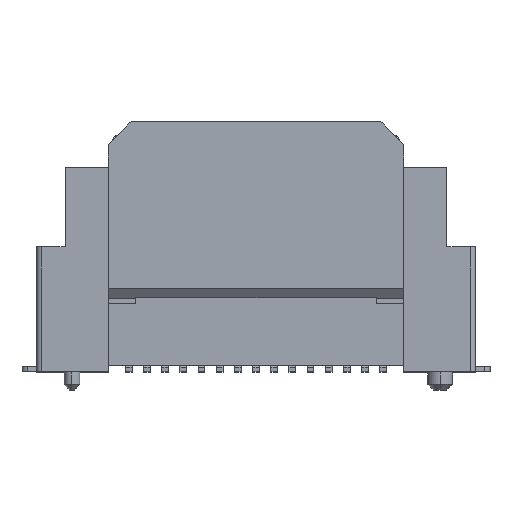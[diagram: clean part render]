
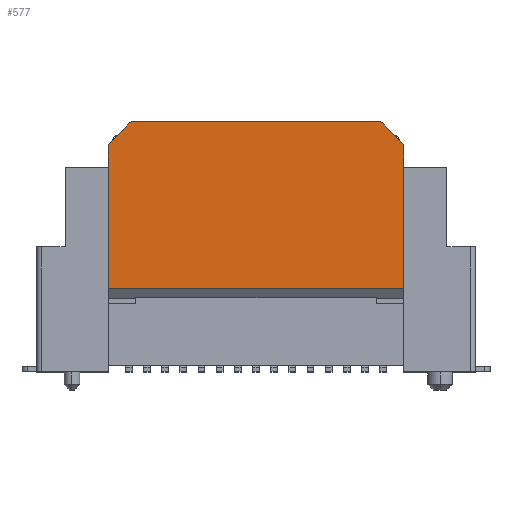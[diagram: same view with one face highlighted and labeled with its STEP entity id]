
A CAD part, top view. The second image highlights one B-rep face of the part: STEP entity #577.
In plain terms, the highlighted planar face has unit normal (0, 0, 1).
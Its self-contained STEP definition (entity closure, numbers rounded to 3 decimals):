
#152 = ORIENTED_EDGE ( 'NONE', *, *, #9112, .T. ) ;
#181 = CARTESIAN_POINT ( 'NONE',  ( -6.5, 9., 2.9 ) ) ;
#466 = EDGE_CURVE ( 'NONE', #1423, #15160, #12662, .T. ) ;
#467 = LINE ( 'NONE', #10291, #1543 ) ;
#577 = ADVANCED_FACE ( 'NONE', ( #2434 ), #12988, .F. ) ;
#1038 = VERTEX_POINT ( 'NONE', #8231 ) ;
#1423 = VERTEX_POINT ( 'NONE', #6023 ) ;
#1543 = VECTOR ( 'NONE', #12984, 1000. ) ;
#2405 = VERTEX_POINT ( 'NONE', #9329 ) ;
#2434 = FACE_OUTER_BOUND ( 'NONE', #7484, .T. ) ;
#3013 = EDGE_CURVE ( 'NONE', #3879, #1038, #467, .T. ) ;
#3216 = CARTESIAN_POINT ( 'NONE',  ( -6.5, 11., 2.9 ) ) ;
#3357 = CARTESIAN_POINT ( 'NONE',  ( -6.5, 3.67, 2.9 ) ) ;
#3401 = DIRECTION ( 'NONE',  ( -1., 0., 0. ) ) ;
#3655 = LINE ( 'NONE', #12902, #5578 ) ;
#3769 = EDGE_CURVE ( 'NONE', #13794, #2405, #16900, .T. ) ;
#3879 = VERTEX_POINT ( 'NONE', #181 ) ;
#4374 = VECTOR ( 'NONE', #13963, 1000. ) ;
#4847 = CARTESIAN_POINT ( 'NONE',  ( -6.5, 2.2, 2.9 ) ) ;
#5004 = DIRECTION ( 'NONE',  ( 0., 0., -1. ) ) ;
#5578 = VECTOR ( 'NONE', #14330, 1000. ) ;
#6023 = CARTESIAN_POINT ( 'NONE',  ( 5.5, 11., 2.9 ) ) ;
#6093 = LINE ( 'NONE', #9676, #9900 ) ;
#6276 = CARTESIAN_POINT ( 'NONE',  ( -5.5, 11., 2.9 ) ) ;
#6881 = DIRECTION ( 'NONE',  ( 0., 1., 0. ) ) ;
#7484 = EDGE_LOOP ( 'NONE', ( #11460, #152, #16154, #10717, #11320, #10372, #13382, #17273 ) ) ;
#7524 = VECTOR ( 'NONE', #3401, 1000. ) ;
#7961 = LINE ( 'NONE', #15168, #4374 ) ;
#8231 = CARTESIAN_POINT ( 'NONE',  ( -6.5, 10., 2.9 ) ) ;
#8262 = VERTEX_POINT ( 'NONE', #3357 ) ;
#9057 = EDGE_CURVE ( 'NONE', #15160, #1038, #6093, .T. ) ;
#9112 = EDGE_CURVE ( 'NONE', #2405, #1423, #7961, .T. ) ;
#9329 = CARTESIAN_POINT ( 'NONE',  ( 6.5, 10., 2.9 ) ) ;
#9437 = AXIS2_PLACEMENT_3D ( 'NONE', #4847, #5004, #14355 ) ;
#9676 = CARTESIAN_POINT ( 'NONE',  ( -5.5, 11., 2.9 ) ) ;
#9835 = VERTEX_POINT ( 'NONE', #13942 ) ;
#9900 = VECTOR ( 'NONE', #12455, 1000. ) ;
#10291 = CARTESIAN_POINT ( 'NONE',  ( -6.5, 2.2, 2.9 ) ) ;
#10372 = ORIENTED_EDGE ( 'NONE', *, *, #17331, .F. ) ;
#10717 = ORIENTED_EDGE ( 'NONE', *, *, #9057, .T. ) ;
#11320 = ORIENTED_EDGE ( 'NONE', *, *, #3013, .F. ) ;
#11460 = ORIENTED_EDGE ( 'NONE', *, *, #3769, .T. ) ;
#11512 = VECTOR ( 'NONE', #15359, 1000. ) ;
#12433 = VECTOR ( 'NONE', #17059, 1000. ) ;
#12455 = DIRECTION ( 'NONE',  ( -0.707, -0.707, 0. ) ) ;
#12662 = LINE ( 'NONE', #3216, #7524 ) ;
#12902 = CARTESIAN_POINT ( 'NONE',  ( -7.724, 3.67, 2.9 ) ) ;
#12984 = DIRECTION ( 'NONE',  ( 0., 1., 0. ) ) ;
#12988 = PLANE ( 'NONE',  #9437 ) ;
#13326 = VECTOR ( 'NONE', #6881, 1000. ) ;
#13382 = ORIENTED_EDGE ( 'NONE', *, *, #14085, .T. ) ;
#13514 = CARTESIAN_POINT ( 'NONE',  ( -6.5, 2.2, 2.9 ) ) ;
#13759 = LINE ( 'NONE', #13514, #13326 ) ;
#13794 = VERTEX_POINT ( 'NONE', #13797 ) ;
#13797 = CARTESIAN_POINT ( 'NONE',  ( 6.5, 9., 2.9 ) ) ;
#13942 = CARTESIAN_POINT ( 'NONE',  ( 6.5, 3.67, 2.9 ) ) ;
#13963 = DIRECTION ( 'NONE',  ( -0.707, 0.707, 0. ) ) ;
#14085 = EDGE_CURVE ( 'NONE', #8262, #9835, #3655, .T. ) ;
#14106 = CARTESIAN_POINT ( 'NONE',  ( 6.5, 2.2, 2.9 ) ) ;
#14201 = LINE ( 'NONE', #16881, #12433 ) ;
#14330 = DIRECTION ( 'NONE',  ( 1., 0., 0. ) ) ;
#14355 = DIRECTION ( 'NONE',  ( -1., 0., 0. ) ) ;
#15160 = VERTEX_POINT ( 'NONE', #6276 ) ;
#15168 = CARTESIAN_POINT ( 'NONE',  ( 6.5, 10., 2.9 ) ) ;
#15359 = DIRECTION ( 'NONE',  ( 0., 1., 0. ) ) ;
#16154 = ORIENTED_EDGE ( 'NONE', *, *, #466, .T. ) ;
#16881 = CARTESIAN_POINT ( 'NONE',  ( 6.5, 2.2, 2.9 ) ) ;
#16900 = LINE ( 'NONE', #14106, #11512 ) ;
#17059 = DIRECTION ( 'NONE',  ( 0., 1., 0. ) ) ;
#17273 = ORIENTED_EDGE ( 'NONE', *, *, #17619, .T. ) ;
#17331 = EDGE_CURVE ( 'NONE', #8262, #3879, #13759, .T. ) ;
#17619 = EDGE_CURVE ( 'NONE', #9835, #13794, #14201, .T. ) ;
